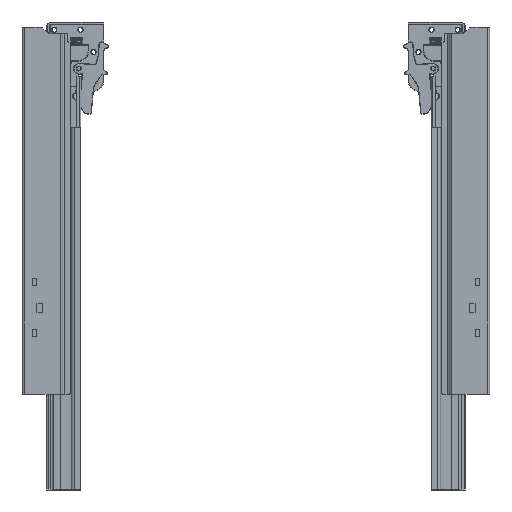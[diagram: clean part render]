
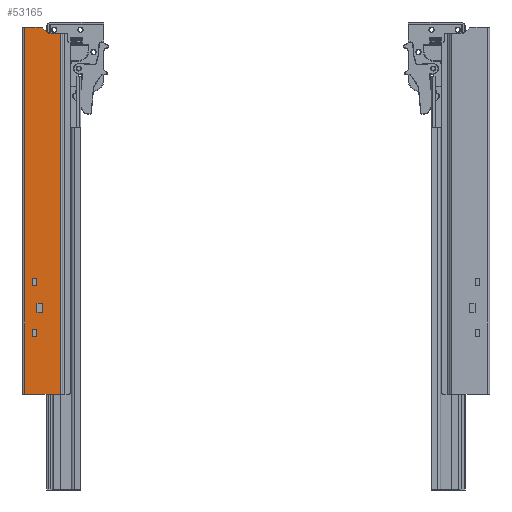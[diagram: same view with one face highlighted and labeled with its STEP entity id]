
A CAD part, front view. The second image highlights one B-rep face of the part: STEP entity #53165.
In plain terms, the highlighted planar face has unit normal (0, -1, 0).
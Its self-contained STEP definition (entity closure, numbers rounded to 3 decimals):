
#4365=FACE_BOUND('',#12810,.T.);
#4366=FACE_BOUND('',#12811,.T.);
#4367=FACE_BOUND('',#12812,.T.);
#5131=CIRCLE('',#56636,2.);
#5133=CIRCLE('',#56640,2.);
#9833=FACE_OUTER_BOUND('',#12809,.T.);
#12809=EDGE_LOOP('',(#33367,#33368,#33369,#33370,#33371,#33372,#33373,#33374));
#12810=EDGE_LOOP('',(#33375,#33376,#33377,#33378));
#12811=EDGE_LOOP('',(#33379,#33380,#33381,#33382));
#12812=EDGE_LOOP('',(#33383,#33384,#33385,#33386));
#16513=LINE('',#77204,#18523);
#16517=LINE('',#77212,#18527);
#16520=LINE('',#77218,#18530);
#16523=LINE('',#77223,#18533);
#16525=LINE('',#77229,#18535);
#16529=LINE('',#77237,#18539);
#16532=LINE('',#77243,#18542);
#16535=LINE('',#77248,#18545);
#16537=LINE('',#77254,#18547);
#16541=LINE('',#77262,#18551);
#16544=LINE('',#77268,#18554);
#16547=LINE('',#77273,#18557);
#16567=LINE('',#77333,#18577);
#16583=LINE('',#77380,#18593);
#16586=LINE('',#77390,#18596);
#16588=LINE('',#77396,#18598);
#16589=LINE('',#77398,#18599);
#16590=LINE('',#77399,#18600);
#18523=VECTOR('',#62804,6.);
#18527=VECTOR('',#62810,3.5);
#18530=VECTOR('',#62815,6.);
#18533=VECTOR('',#62820,3.5);
#18535=VECTOR('',#62826,6.);
#18539=VECTOR('',#62832,3.5);
#18542=VECTOR('',#62837,6.);
#18545=VECTOR('',#62842,3.5);
#18547=VECTOR('',#62848,8.);
#18551=VECTOR('',#62854,5.);
#18554=VECTOR('',#62859,8.);
#18557=VECTOR('',#62864,5.);
#18577=VECTOR('',#62920,5.414);
#18593=VECTOR('',#62962,9.672);
#18596=VECTOR('',#62971,309.);
#18598=VECTOR('',#62977,14.172);
#18599=VECTOR('',#62978,314.);
#18600=VECTOR('',#62979,30.5);
#20533=VERTEX_POINT('',#77202);
#20534=VERTEX_POINT('',#77203);
#20537=VERTEX_POINT('',#77211);
#20539=VERTEX_POINT('',#77217);
#20541=VERTEX_POINT('',#77227);
#20542=VERTEX_POINT('',#77228);
#20545=VERTEX_POINT('',#77236);
#20547=VERTEX_POINT('',#77242);
#20549=VERTEX_POINT('',#77252);
#20550=VERTEX_POINT('',#77253);
#20553=VERTEX_POINT('',#77261);
#20555=VERTEX_POINT('',#77267);
#20575=VERTEX_POINT('',#77323);
#20576=VERTEX_POINT('',#77325);
#20578=VERTEX_POINT('',#77331);
#20580=VERTEX_POINT('',#77337);
#20596=VERTEX_POINT('',#77379);
#20600=VERTEX_POINT('',#77389);
#20602=VERTEX_POINT('',#77395);
#20603=VERTEX_POINT('',#77397);
#25239=EDGE_CURVE('',#20533,#20534,#16513,.T.);
#25243=EDGE_CURVE('',#20534,#20537,#16517,.T.);
#25246=EDGE_CURVE('',#20537,#20539,#16520,.T.);
#25249=EDGE_CURVE('',#20539,#20533,#16523,.T.);
#25251=EDGE_CURVE('',#20541,#20542,#16525,.T.);
#25255=EDGE_CURVE('',#20542,#20545,#16529,.T.);
#25258=EDGE_CURVE('',#20545,#20547,#16532,.T.);
#25261=EDGE_CURVE('',#20547,#20541,#16535,.T.);
#25263=EDGE_CURVE('',#20549,#20550,#16537,.T.);
#25267=EDGE_CURVE('',#20550,#20553,#16541,.T.);
#25270=EDGE_CURVE('',#20553,#20555,#16544,.T.);
#25273=EDGE_CURVE('',#20555,#20549,#16547,.T.);
#25298=EDGE_CURVE('',#20575,#20576,#5131,.T.);
#25302=EDGE_CURVE('',#20575,#20578,#16567,.T.);
#25305=EDGE_CURVE('',#20580,#20578,#5133,.T.);
#25325=EDGE_CURVE('',#20596,#20576,#16583,.T.);
#25330=EDGE_CURVE('',#20596,#20600,#16586,.T.);
#25333=EDGE_CURVE('',#20602,#20580,#16588,.T.);
#25334=EDGE_CURVE('',#20602,#20603,#16589,.T.);
#25335=EDGE_CURVE('',#20600,#20603,#16590,.T.);
#33367=ORIENTED_EDGE('',*,*,#25305,.F.);
#33368=ORIENTED_EDGE('',*,*,#25333,.F.);
#33369=ORIENTED_EDGE('',*,*,#25334,.T.);
#33370=ORIENTED_EDGE('',*,*,#25335,.F.);
#33371=ORIENTED_EDGE('',*,*,#25330,.F.);
#33372=ORIENTED_EDGE('',*,*,#25325,.T.);
#33373=ORIENTED_EDGE('',*,*,#25298,.F.);
#33374=ORIENTED_EDGE('',*,*,#25302,.T.);
#33375=ORIENTED_EDGE('',*,*,#25239,.T.);
#33376=ORIENTED_EDGE('',*,*,#25243,.T.);
#33377=ORIENTED_EDGE('',*,*,#25246,.T.);
#33378=ORIENTED_EDGE('',*,*,#25249,.T.);
#33379=ORIENTED_EDGE('',*,*,#25251,.T.);
#33380=ORIENTED_EDGE('',*,*,#25255,.T.);
#33381=ORIENTED_EDGE('',*,*,#25258,.T.);
#33382=ORIENTED_EDGE('',*,*,#25261,.T.);
#33383=ORIENTED_EDGE('',*,*,#25263,.T.);
#33384=ORIENTED_EDGE('',*,*,#25267,.T.);
#33385=ORIENTED_EDGE('',*,*,#25270,.T.);
#33386=ORIENTED_EDGE('',*,*,#25273,.T.);
#49226=PLANE('',#56655);
#53165=ADVANCED_FACE('',(#9833,#4365,#4366,#4367),#49226,.T.);
#56636=AXIS2_PLACEMENT_3D('',#77326,#62913,#62914);
#56640=AXIS2_PLACEMENT_3D('',#77339,#62926,#62927);
#56655=AXIS2_PLACEMENT_3D('',#77394,#62975,#62976);
#62804=DIRECTION('',(0.,0.,1.));
#62810=DIRECTION('',(1.,0.,0.));
#62815=DIRECTION('',(0.,0.,-1.));
#62820=DIRECTION('',(-1.,0.,0.));
#62826=DIRECTION('',(0.,0.,1.));
#62832=DIRECTION('',(1.,0.,0.));
#62837=DIRECTION('',(0.,0.,-1.));
#62842=DIRECTION('',(-1.,0.,0.));
#62848=DIRECTION('',(0.,0.,1.));
#62854=DIRECTION('',(1.,0.,0.));
#62859=DIRECTION('',(0.,0.,-1.));
#62864=DIRECTION('',(-1.,0.,0.));
#62913=DIRECTION('center_axis',(0.,-1.,0.));
#62914=DIRECTION('ref_axis',(-0.383,0.,-0.924));
#62920=DIRECTION('',(-0.707,0.,0.707));
#62926=DIRECTION('center_axis',(0.,1.,0.));
#62927=DIRECTION('ref_axis',(0.383,0.,0.924));
#62962=DIRECTION('',(-1.,0.,0.));
#62971=DIRECTION('',(0.,0.,-1.));
#62975=DIRECTION('center_axis',(0.,-1.,0.));
#62976=DIRECTION('ref_axis',(-1.,0.,0.));
#62977=DIRECTION('',(1.,0.,0.));
#62978=DIRECTION('',(0.,0.,-1.));
#62979=DIRECTION('',(-1.,0.,0.));
#77202=CARTESIAN_POINT('',(9.,0.,-221.));
#77203=CARTESIAN_POINT('',(9.,0.,-215.));
#77204=CARTESIAN_POINT('',(9.,0.,-107.5));
#77211=CARTESIAN_POINT('',(12.5,0.,-215.));
#77212=CARTESIAN_POINT('',(22.5,0.,-215.));
#77217=CARTESIAN_POINT('',(12.5,0.,-221.));
#77218=CARTESIAN_POINT('',(12.5,0.,-110.5));
#77223=CARTESIAN_POINT('',(20.75,0.,-221.));
#77227=CARTESIAN_POINT('',(9.,0.,-265.));
#77228=CARTESIAN_POINT('',(9.,0.,-259.));
#77229=CARTESIAN_POINT('',(9.,0.,-129.5));
#77236=CARTESIAN_POINT('',(12.5,0.,-259.));
#77237=CARTESIAN_POINT('',(22.5,0.,-259.));
#77242=CARTESIAN_POINT('',(12.5,0.,-265.));
#77243=CARTESIAN_POINT('',(12.5,0.,-132.5));
#77248=CARTESIAN_POINT('',(20.75,0.,-265.));
#77252=CARTESIAN_POINT('',(12.5,0.,-244.));
#77253=CARTESIAN_POINT('',(12.5,0.,-236.));
#77254=CARTESIAN_POINT('',(12.5,0.,-118.));
#77261=CARTESIAN_POINT('',(17.5,0.,-236.));
#77262=CARTESIAN_POINT('',(25.,0.,-236.));
#77267=CARTESIAN_POINT('',(17.5,0.,-244.));
#77268=CARTESIAN_POINT('',(17.5,0.,-122.));
#77273=CARTESIAN_POINT('',(22.5,0.,-244.));
#77323=CARTESIAN_POINT('',(21.414,0.,-4.414));
#77325=CARTESIAN_POINT('',(22.828,0.,-5.));
#77326=CARTESIAN_POINT('Origin',(22.828,0.,
-3.));
#77331=CARTESIAN_POINT('',(17.586,0.,-0.586));
#77333=CARTESIAN_POINT('',(23.375,0.,-6.375));
#77337=CARTESIAN_POINT('',(16.172,0.,0.));
#77339=CARTESIAN_POINT('Origin',(16.172,0.,
-2.));
#77379=CARTESIAN_POINT('',(32.5,0.,-5.));
#77380=CARTESIAN_POINT('',(35.75,0.,-5.));
#77389=CARTESIAN_POINT('',(32.5,0.,-314.));
#77390=CARTESIAN_POINT('',(32.5,0.,0.));
#77394=CARTESIAN_POINT('Origin',(32.5,0.,0.));
#77395=CARTESIAN_POINT('',(2.,0.,0.));
#77396=CARTESIAN_POINT('',(2.,0.,0.));
#77397=CARTESIAN_POINT('',(2.,0.,-314.));
#77398=CARTESIAN_POINT('',(2.,0.,0.));
#77399=CARTESIAN_POINT('',(2.,0.,-314.));
